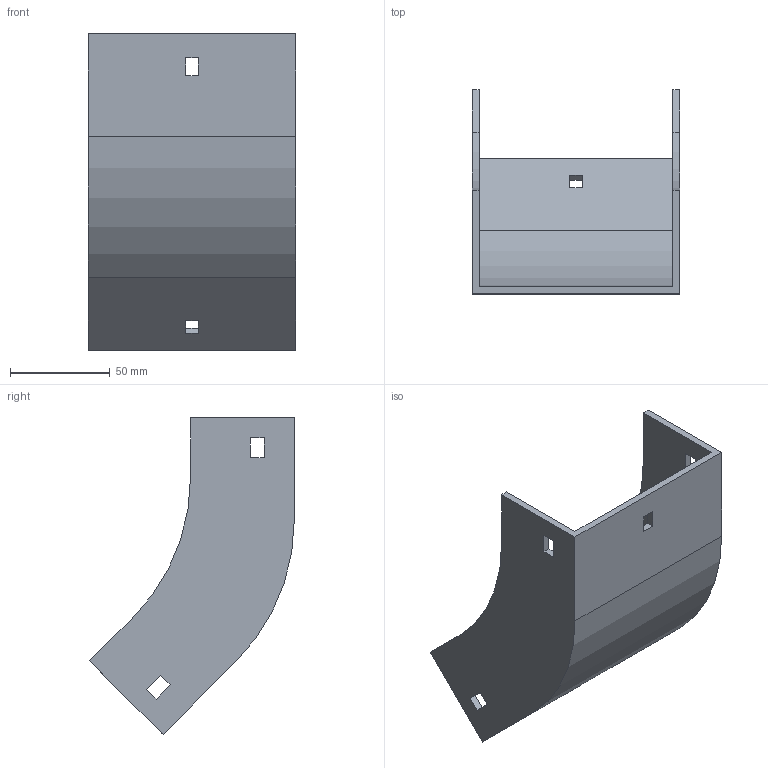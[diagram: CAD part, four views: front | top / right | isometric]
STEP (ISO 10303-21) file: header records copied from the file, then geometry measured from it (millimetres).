
FILE_DESCRIPTION (( 'STEP AP214' ), '1' );
FILE_NAME ('31F1B100.step', '2025-02-21T12:59:52', ( '' ), ( '' ), 'SwSTEP 2.0', 'SolidWorks 2023', '' );
FILE_SCHEMA (( 'AUTOMOTIVE_DESIGN' ));
Length unit declared in the file: millimetre
Products named in the file (1): 31F1B100
Bounding box: 104 x 102.5 x 158.69 mm (x, y, z)
Volume: 119638.2 mm3; surface area: 71444.1 mm2
Topology: 1 solids, 1 shells, 42 faces, 120 edges, 80 vertices
Faces by surface type: plane 38, cylinder 4
Entity records: 1399 total; most frequent: CARTESIAN_POINT 243, ORIENTED_EDGE 240, DIRECTION 214, EDGE_CURVE 120, LINE 112, VECTOR 112, VERTEX_POINT 80, EDGE_LOOP 54
